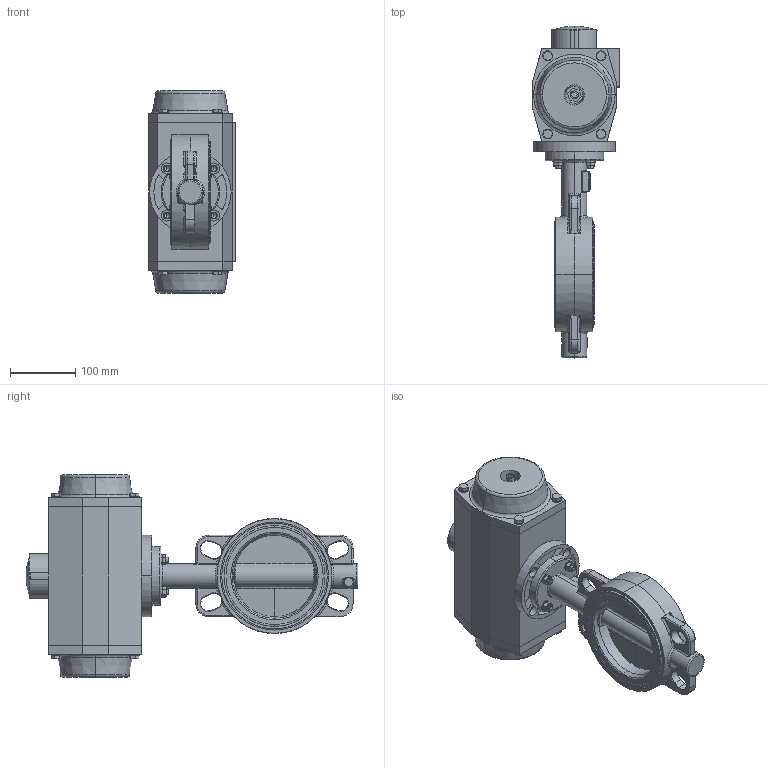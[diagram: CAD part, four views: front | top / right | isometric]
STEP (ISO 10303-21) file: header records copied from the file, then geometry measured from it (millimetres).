
FILE_DESCRIPTION (( 'STEP AP214' ), '1' );
FILE_NAME ('VTB200 DN125 + AP4.5S.STEP', '2015-10-04T19:19:16', ( '' ), ( '' ), 'SwSTEP 2.0', 'SolidWorks 2013', '' );
FILE_SCHEMA (( 'AUTOMOTIVE_DESIGN' ));
Length unit declared in the file: millimetre
Products named in the file (11): VTB200 Wafer DN125 BS; Typeplaatje xxmm; Klep VTB200 DN125 2013; Huis met zitting DN125 2013; VTB200 DN125 + AP4.5S; hex nut gradec_din_Hexagon Nut ISO 4034 - M8 - N; Verloopster 22_14; hex bolt gradeb_din_ISO 4015 - M8 x 35 x 22-N; YF125F7F10H16D25NYL; plain washer clevis pin grade a_din_Washer ISO 8738 - 8; AP4.5_Default<As Machined>
Assembly tree (19 placements, depth 3):
  VTB200 DN125 + AP4.5S
    VTB200 Wafer DN125 BS
      Huis met zitting DN125 2013
      Klep VTB200 DN125 2013
      Typeplaatje xxmm
    AP4.5_Default<As Machined>
    plain washer clevis pin grade a_din_Washer ISO 8738 - 8  x4
    YF125F7F10H16D25NYL
    hex bolt gradeb_din_ISO 4015 - M8 x 35 x 22-N  x4
    Verloopster 22_14
    hex nut gradec_din_Hexagon Nut ISO 4034 - M8 - N  x4
Bounding box: 133 x 508.9 x 310 mm (x, y, z)
Volume: 6312687.3 mm3; surface area: 483105.5 mm2
Topology: 29 solids, 30 shells, 1201 faces, 2851 edges, 1736 vertices
Faces by surface type: plane 510, cylinder 283, cone 158, bspline 132, torus 101, sphere 17
Entity records: 43250 total; most frequent: CARTESIAN_POINT 17053, ORIENTED_EDGE 4934, DIRECTION 4842, EDGE_CURVE 2467, AXIS2_PLACEMENT_3D 1817, VERTEX_POINT 1538, VECTOR 1208, LINE 1208
